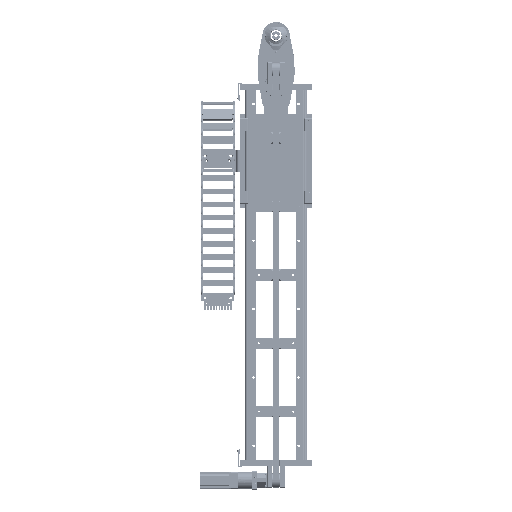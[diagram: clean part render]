
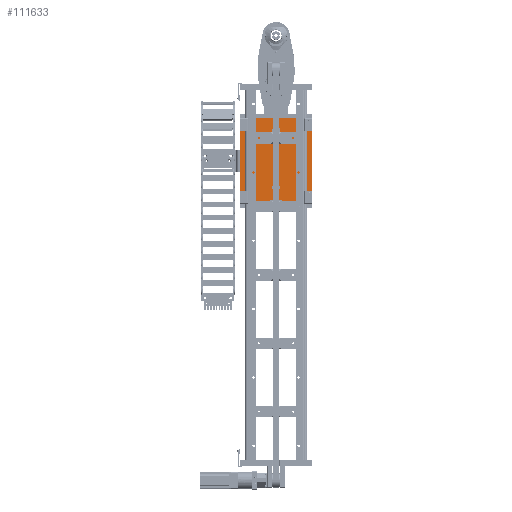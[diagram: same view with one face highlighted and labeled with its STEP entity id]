
A CAD part, front view. The second image highlights one B-rep face of the part: STEP entity #111633.
In plain terms, the highlighted planar face has unit normal (0, -1, 0) as drawn and (0, 0, -1) by its records, which use the part's own axes.
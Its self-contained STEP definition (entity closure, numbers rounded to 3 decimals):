
#5922=FACE_BOUND('',#18675,.T.);
#5923=FACE_BOUND('',#18676,.T.);
#5924=FACE_BOUND('',#18677,.T.);
#5925=FACE_BOUND('',#18678,.T.);
#5926=FACE_BOUND('',#18679,.T.);
#5927=FACE_BOUND('',#18680,.T.);
#5928=FACE_BOUND('',#18681,.T.);
#5929=FACE_BOUND('',#18682,.T.);
#5930=FACE_BOUND('',#18683,.T.);
#5931=FACE_BOUND('',#18684,.T.);
#5932=FACE_BOUND('',#18685,.T.);
#5933=FACE_BOUND('',#18686,.T.);
#5934=FACE_BOUND('',#18687,.T.);
#5935=FACE_BOUND('',#18688,.T.);
#6941=PLANE('',#119561);
#12591=FACE_OUTER_BOUND('',#18674,.T.);
#18674=EDGE_LOOP('',(#81294,#81295,#81296,#81297));
#18675=EDGE_LOOP('',(#81298));
#18676=EDGE_LOOP('',(#81299));
#18677=EDGE_LOOP('',(#81300));
#18678=EDGE_LOOP('',(#81301));
#18679=EDGE_LOOP('',(#81302,#81303,#81304,#81305));
#18680=EDGE_LOOP('',(#81306,#81307,#81308,#81309));
#18681=EDGE_LOOP('',(#81310));
#18682=EDGE_LOOP('',(#81311));
#18683=EDGE_LOOP('',(#81312));
#18684=EDGE_LOOP('',(#81313));
#18685=EDGE_LOOP('',(#81314));
#18686=EDGE_LOOP('',(#81315));
#18687=EDGE_LOOP('',(#81316));
#18688=EDGE_LOOP('',(#81317));
#25492=LINE('',#163275,#36855);
#25496=LINE('',#163286,#36859);
#25504=LINE('',#163314,#36867);
#25508=LINE('',#163325,#36871);
#25525=LINE('',#163440,#36888);
#25529=LINE('',#163448,#36892);
#25532=LINE('',#163454,#36895);
#25535=LINE('',#163459,#36898);
#36855=VECTOR('',#131240,10.);
#36859=VECTOR('',#131252,10.);
#36867=VECTOR('',#131282,10.);
#36871=VECTOR('',#131294,10.);
#36888=VECTOR('',#131427,10.);
#36892=VECTOR('',#131433,10.);
#36895=VECTOR('',#131438,10.);
#36898=VECTOR('',#131443,10.);
#48109=CIRCLE('',#119444,3.);
#48115=CIRCLE('',#119453,3.);
#48121=CIRCLE('',#119462,3.);
#48127=CIRCLE('',#119471,3.);
#48130=CIRCLE('',#119478,3.);
#48132=CIRCLE('',#119482,3.);
#48138=CIRCLE('',#119493,3.);
#48140=CIRCLE('',#119497,3.);
#48149=CIRCLE('',#119513,4.5);
#48152=CIRCLE('',#119517,4.5);
#48158=CIRCLE('',#119526,4.5);
#48161=CIRCLE('',#119530,4.5);
#48167=CIRCLE('',#119539,4.5);
#48170=CIRCLE('',#119543,4.5);
#48173=CIRCLE('',#119547,4.5);
#48179=CIRCLE('',#119556,4.5);
#52270=VERTEX_POINT('',#163186);
#52276=VERTEX_POINT('',#163203);
#52282=VERTEX_POINT('',#163220);
#52288=VERTEX_POINT('',#163237);
#52299=VERTEX_POINT('',#163265);
#52300=VERTEX_POINT('',#163266);
#52303=VERTEX_POINT('',#163274);
#52305=VERTEX_POINT('',#163280);
#52311=VERTEX_POINT('',#163304);
#52312=VERTEX_POINT('',#163305);
#52315=VERTEX_POINT('',#163313);
#52317=VERTEX_POINT('',#163319);
#52326=VERTEX_POINT('',#163351);
#52329=VERTEX_POINT('',#163359);
#52335=VERTEX_POINT('',#163376);
#52338=VERTEX_POINT('',#163384);
#52344=VERTEX_POINT('',#163401);
#52347=VERTEX_POINT('',#163409);
#52350=VERTEX_POINT('',#163417);
#52356=VERTEX_POINT('',#163434);
#52357=VERTEX_POINT('',#163438);
#52358=VERTEX_POINT('',#163439);
#52361=VERTEX_POINT('',#163447);
#52363=VERTEX_POINT('',#163453);
#63524=EDGE_CURVE('',#52270,#52270,#48109,.T.);
#63532=EDGE_CURVE('',#52276,#52276,#48115,.T.);
#63540=EDGE_CURVE('',#52282,#52282,#48121,.T.);
#63548=EDGE_CURVE('',#52288,#52288,#48127,.T.);
#63560=EDGE_CURVE('',#52299,#52300,#48130,.T.);
#63564=EDGE_CURVE('',#52303,#52299,#25492,.T.);
#63567=EDGE_CURVE('',#52305,#52303,#48132,.T.);
#63570=EDGE_CURVE('',#52300,#52305,#25496,.T.);
#63580=EDGE_CURVE('',#52311,#52312,#48138,.T.);
#63584=EDGE_CURVE('',#52312,#52315,#25504,.T.);
#63587=EDGE_CURVE('',#52315,#52317,#48140,.T.);
#63590=EDGE_CURVE('',#52317,#52311,#25508,.T.);
#63604=EDGE_CURVE('',#52326,#52326,#48149,.T.);
#63608=EDGE_CURVE('',#52329,#52329,#48152,.T.);
#63616=EDGE_CURVE('',#52335,#52335,#48158,.T.);
#63620=EDGE_CURVE('',#52338,#52338,#48161,.T.);
#63628=EDGE_CURVE('',#52344,#52344,#48167,.T.);
#63632=EDGE_CURVE('',#52347,#52347,#48170,.T.);
#63636=EDGE_CURVE('',#52350,#52350,#48173,.T.);
#63644=EDGE_CURVE('',#52356,#52356,#48179,.T.);
#63645=EDGE_CURVE('',#52357,#52358,#25525,.T.);
#63649=EDGE_CURVE('',#52358,#52361,#25529,.T.);
#63652=EDGE_CURVE('',#52361,#52363,#25532,.T.);
#63655=EDGE_CURVE('',#52363,#52357,#25535,.T.);
#81294=ORIENTED_EDGE('',*,*,#63655,.T.);
#81295=ORIENTED_EDGE('',*,*,#63645,.T.);
#81296=ORIENTED_EDGE('',*,*,#63649,.T.);
#81297=ORIENTED_EDGE('',*,*,#63652,.T.);
#81298=ORIENTED_EDGE('',*,*,#63524,.T.);
#81299=ORIENTED_EDGE('',*,*,#63532,.T.);
#81300=ORIENTED_EDGE('',*,*,#63540,.T.);
#81301=ORIENTED_EDGE('',*,*,#63548,.T.);
#81302=ORIENTED_EDGE('',*,*,#63560,.T.);
#81303=ORIENTED_EDGE('',*,*,#63570,.T.);
#81304=ORIENTED_EDGE('',*,*,#63567,.T.);
#81305=ORIENTED_EDGE('',*,*,#63564,.T.);
#81306=ORIENTED_EDGE('',*,*,#63587,.T.);
#81307=ORIENTED_EDGE('',*,*,#63590,.T.);
#81308=ORIENTED_EDGE('',*,*,#63580,.T.);
#81309=ORIENTED_EDGE('',*,*,#63584,.T.);
#81310=ORIENTED_EDGE('',*,*,#63604,.T.);
#81311=ORIENTED_EDGE('',*,*,#63608,.T.);
#81312=ORIENTED_EDGE('',*,*,#63616,.T.);
#81313=ORIENTED_EDGE('',*,*,#63620,.T.);
#81314=ORIENTED_EDGE('',*,*,#63628,.T.);
#81315=ORIENTED_EDGE('',*,*,#63632,.T.);
#81316=ORIENTED_EDGE('',*,*,#63636,.T.);
#81317=ORIENTED_EDGE('',*,*,#63644,.T.);
#111633=ADVANCED_FACE('',(#12591,#5922,#5923,#5924,#5925,#5926,#5927,#5928,
#5929,#5930,#5931,#5932,#5933,#5934,#5935),#6941,.F.);
#119444=AXIS2_PLACEMENT_3D('',#163188,#131149,#131150);
#119453=AXIS2_PLACEMENT_3D('',#163205,#131169,#131170);
#119462=AXIS2_PLACEMENT_3D('',#163222,#131189,#131190);
#119471=AXIS2_PLACEMENT_3D('',#163239,#131209,#131210);
#119478=AXIS2_PLACEMENT_3D('',#163267,#131232,#131233);
#119482=AXIS2_PLACEMENT_3D('',#163281,#131245,#131246);
#119493=AXIS2_PLACEMENT_3D('',#163306,#131274,#131275);
#119497=AXIS2_PLACEMENT_3D('',#163320,#131287,#131288);
#119513=AXIS2_PLACEMENT_3D('',#163353,#131327,#131328);
#119517=AXIS2_PLACEMENT_3D('',#163361,#131336,#131337);
#119526=AXIS2_PLACEMENT_3D('',#163378,#131356,#131357);
#119530=AXIS2_PLACEMENT_3D('',#163386,#131365,#131366);
#119539=AXIS2_PLACEMENT_3D('',#163403,#131385,#131386);
#119543=AXIS2_PLACEMENT_3D('',#163411,#131394,#131395);
#119547=AXIS2_PLACEMENT_3D('',#163419,#131403,#131404);
#119556=AXIS2_PLACEMENT_3D('',#163436,#131423,#131424);
#119561=AXIS2_PLACEMENT_3D('',#163461,#131445,#131446);
#131149=DIRECTION('center_axis',(0.,0.,1.));
#131150=DIRECTION('ref_axis',(1.,0.,0.));
#131169=DIRECTION('center_axis',(0.,0.,1.));
#131170=DIRECTION('ref_axis',(1.,0.,0.));
#131189=DIRECTION('center_axis',(0.,0.,1.));
#131190=DIRECTION('ref_axis',(1.,0.,0.));
#131209=DIRECTION('center_axis',(0.,0.,1.));
#131210=DIRECTION('ref_axis',(1.,0.,0.));
#131232=DIRECTION('center_axis',(0.,0.,1.));
#131233=DIRECTION('ref_axis',(0.,-1.,0.));
#131240=DIRECTION('',(-1.,0.,0.));
#131245=DIRECTION('center_axis',(0.,0.,1.));
#131246=DIRECTION('ref_axis',(0.,1.,0.));
#131252=DIRECTION('',(1.,0.,0.));
#131274=DIRECTION('center_axis',(0.,0.,1.));
#131275=DIRECTION('ref_axis',(0.,1.,0.));
#131282=DIRECTION('',(1.,0.,0.));
#131287=DIRECTION('center_axis',(0.,0.,1.));
#131288=DIRECTION('ref_axis',(0.,-1.,0.));
#131294=DIRECTION('',(-1.,0.,0.));
#131327=DIRECTION('center_axis',(0.,0.,1.));
#131328=DIRECTION('ref_axis',(-1.,0.,0.));
#131336=DIRECTION('center_axis',(0.,0.,1.));
#131337=DIRECTION('ref_axis',(-1.,0.,0.));
#131356=DIRECTION('center_axis',(0.,0.,1.));
#131357=DIRECTION('ref_axis',(-1.,0.,0.));
#131365=DIRECTION('center_axis',(0.,0.,1.));
#131366=DIRECTION('ref_axis',(-1.,0.,0.));
#131385=DIRECTION('center_axis',(0.,0.,1.));
#131386=DIRECTION('ref_axis',(1.,0.,0.));
#131394=DIRECTION('center_axis',(0.,0.,1.));
#131395=DIRECTION('ref_axis',(1.,0.,0.));
#131403=DIRECTION('center_axis',(0.,0.,1.));
#131404=DIRECTION('ref_axis',(1.,0.,0.));
#131423=DIRECTION('center_axis',(0.,0.,1.));
#131424=DIRECTION('ref_axis',(1.,0.,0.));
#131427=DIRECTION('',(0.,-1.,0.));
#131433=DIRECTION('',(-1.,0.,0.));
#131438=DIRECTION('',(0.,1.,0.));
#131443=DIRECTION('',(1.,0.,0.));
#131445=DIRECTION('center_axis',(0.,0.,1.));
#131446=DIRECTION('ref_axis',(1.,0.,0.));
#163186=CARTESIAN_POINT('',(105.,7.,0.));
#163188=CARTESIAN_POINT('Origin',(108.,7.,0.));
#163203=CARTESIAN_POINT('',(105.,-7.,0.));
#163205=CARTESIAN_POINT('Origin',(108.,-7.,0.));
#163220=CARTESIAN_POINT('',(-146.,15.5,0.));
#163222=CARTESIAN_POINT('Origin',(-143.,15.5,0.));
#163237=CARTESIAN_POINT('',(-146.,-15.5,0.));
#163239=CARTESIAN_POINT('Origin',(-143.,-15.5,0.));
#163265=CARTESIAN_POINT('',(-92.,-4.,0.));
#163266=CARTESIAN_POINT('',(-92.,-10.,0.));
#163267=CARTESIAN_POINT('Origin',(-92.,-7.,0.));
#163274=CARTESIAN_POINT('',(-67.,-4.,0.));
#163275=CARTESIAN_POINT('',(-33.5,-4.,0.));
#163280=CARTESIAN_POINT('',(-67.,-10.,0.));
#163281=CARTESIAN_POINT('Origin',(-67.,-7.,0.));
#163286=CARTESIAN_POINT('',(-46.,-10.,0.));
#163304=CARTESIAN_POINT('',(-92.,10.,0.));
#163305=CARTESIAN_POINT('',(-92.,4.,0.));
#163306=CARTESIAN_POINT('Origin',(-92.,7.,0.));
#163313=CARTESIAN_POINT('',(-67.,4.,0.));
#163314=CARTESIAN_POINT('',(-33.5,4.,0.));
#163319=CARTESIAN_POINT('',(-67.,10.,0.));
#163320=CARTESIAN_POINT('Origin',(-67.,7.,0.));
#163325=CARTESIAN_POINT('',(-46.,10.,0.));
#163351=CARTESIAN_POINT('',(118.5,-117.,0.));
#163353=CARTESIAN_POINT('Origin',(114.,-117.,0.));
#163359=CARTESIAN_POINT('',(145.5,-117.,0.));
#163361=CARTESIAN_POINT('Origin',(141.,-117.,0.));
#163376=CARTESIAN_POINT('',(118.5,117.,0.));
#163378=CARTESIAN_POINT('Origin',(114.,117.,0.));
#163384=CARTESIAN_POINT('',(145.5,117.,0.));
#163386=CARTESIAN_POINT('Origin',(141.,117.,0.));
#163401=CARTESIAN_POINT('',(-118.5,-117.,0.));
#163403=CARTESIAN_POINT('Origin',(-114.,-117.,0.));
#163409=CARTESIAN_POINT('',(-145.5,-117.,0.));
#163411=CARTESIAN_POINT('Origin',(-141.,-117.,0.));
#163417=CARTESIAN_POINT('',(-145.5,117.,0.));
#163419=CARTESIAN_POINT('Origin',(-141.,117.,0.));
#163434=CARTESIAN_POINT('',(-118.5,117.,0.));
#163436=CARTESIAN_POINT('Origin',(-114.,117.,0.));
#163438=CARTESIAN_POINT('',(150.,126.,0.));
#163439=CARTESIAN_POINT('',(150.,-126.,0.));
#163440=CARTESIAN_POINT('',(150.,126.,0.));
#163447=CARTESIAN_POINT('',(-150.,-126.,0.));
#163448=CARTESIAN_POINT('',(150.,-126.,0.));
#163453=CARTESIAN_POINT('',(-150.,126.,0.));
#163454=CARTESIAN_POINT('',(-150.,-126.,0.));
#163459=CARTESIAN_POINT('',(-150.,126.,0.));
#163461=CARTESIAN_POINT('Origin',(0.,0.,
0.));
